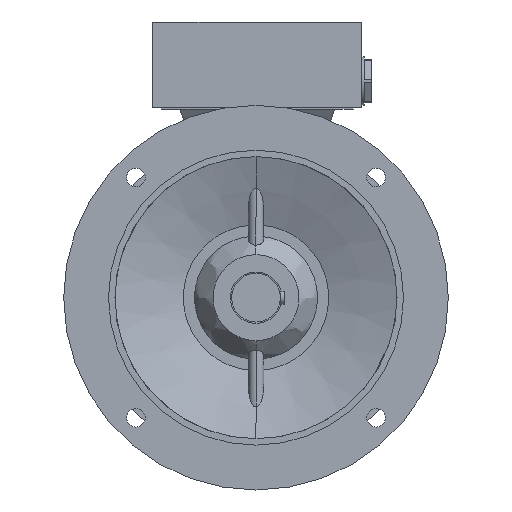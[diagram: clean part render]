
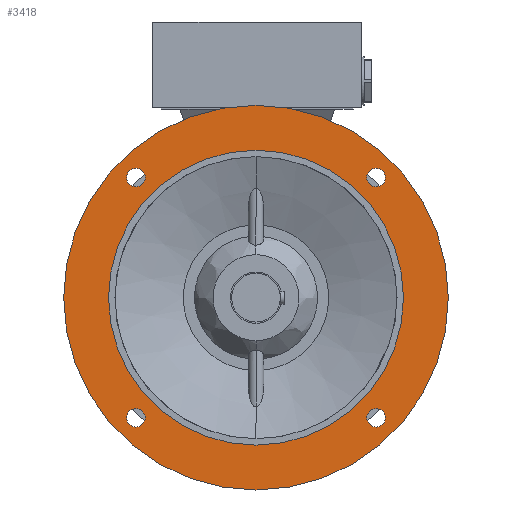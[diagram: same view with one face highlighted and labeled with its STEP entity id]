
A CAD part, left-side view. The second image highlights one B-rep face of the part: STEP entity #3418.
In plain terms, the highlighted planar face has unit normal (-1, 0, 0).
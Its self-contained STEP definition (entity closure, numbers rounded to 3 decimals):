
#764 = VERTEX_POINT ( 'NONE', #19964 ) ;
#766 = VERTEX_POINT ( 'NONE', #19965 ) ;
#768 = VERTEX_POINT ( 'NONE', #19966 ) ;
#770 = VERTEX_POINT ( 'NONE', #19967 ) ;
#782 = VERTEX_POINT ( 'NONE', #19972 ) ;
#788 = VERTEX_POINT ( 'NONE', #19975 ) ;
#790 = VERTEX_POINT ( 'NONE', #19976 ) ;
#795 = VERTEX_POINT ( 'NONE', #19979 ) ;
#797 = VERTEX_POINT ( 'NONE', #19980 ) ;
#805 = VERTEX_POINT ( 'NONE', #19983 ) ;
#807 = VERTEX_POINT ( 'NONE', #19984 ) ;
#813 = VERTEX_POINT ( 'NONE', #19987 ) ;
#1368 = CIRCLE ( 'NONE', #19441, 7.25 ) ;
#1381 = CIRCLE ( 'NONE', #19444, 7.25 ) ;
#1392 = CIRCLE ( 'NONE', #19447, 7.25 ) ;
#1426 = CIRCLE ( 'NONE', #19453, 7.25 ) ;
#1528 = CIRCLE ( 'NONE', #19490, 115. ) ;
#1531 = CIRCLE ( 'NONE', #19492, 150. ) ;
#2607 = EDGE_CURVE ( 'NONE', #807, #813, #10595, .T. ) ;
#2608 = EDGE_CURVE ( 'NONE', #797, #805, #10593, .T. ) ;
#2609 = EDGE_CURVE ( 'NONE', #790, #795, #10597, .T. ) ;
#2610 = EDGE_CURVE ( 'NONE', #782, #788, #10598, .T. ) ;
#2611 = EDGE_CURVE ( 'NONE', #764, #766, #10599, .T. ) ;
#2624 = EDGE_CURVE ( 'NONE', #768, #770, #10623, .T. ) ;
#3418 = ADVANCED_FACE ( 'NONE', ( #10918, #10920, #10910, #10919, #10901, #10921 ), #18068, .T. ) ;
#9034 = CARTESIAN_POINT ( 'NONE',  ( -50.5, -93.692, -93.692 ) ) ;
#9035 = DIRECTION ( 'NONE',  ( 1., 0., 0. ) ) ;
#9036 = DIRECTION ( 'NONE',  ( 0., 0., -1. ) ) ;
#9043 = CARTESIAN_POINT ( 'NONE',  ( -50.5, 93.692, -93.692 ) ) ;
#9044 = DIRECTION ( 'NONE',  ( 1., 0., 0. ) ) ;
#9045 = DIRECTION ( 'NONE',  ( 0., 0., -1. ) ) ;
#9054 = CARTESIAN_POINT ( 'NONE',  ( -50.5, 93.692, 93.692 ) ) ;
#9055 = DIRECTION ( 'NONE',  ( 1., 0., 0. ) ) ;
#9056 = DIRECTION ( 'NONE',  ( 0., 0., -1. ) ) ;
#9168 = CARTESIAN_POINT ( 'NONE',  ( -50.5, -93.692, 93.692 ) ) ;
#9170 = DIRECTION ( 'NONE',  ( 1., 0., 0. ) ) ;
#9172 = DIRECTION ( 'NONE',  ( 0., 0., -1. ) ) ;
#10005 = CARTESIAN_POINT ( 'NONE',  ( -50.5, 0., 0. ) ) ;
#10007 = DIRECTION ( 'NONE',  ( 1., 0., 0. ) ) ;
#10009 = DIRECTION ( 'NONE',  ( 0., 0., 1. ) ) ;
#10024 = CARTESIAN_POINT ( 'NONE',  ( -50.5, 0., 0. ) ) ;
#10026 = DIRECTION ( 'NONE',  ( 1., 0., 0. ) ) ;
#10027 = DIRECTION ( 'NONE',  ( 0., 0., 1. ) ) ;
#10593 = CIRCLE ( 'NONE', #22544, 7.25 ) ;
#10595 = CIRCLE ( 'NONE', #22543, 7.25 ) ;
#10597 = CIRCLE ( 'NONE', #22545, 7.25 ) ;
#10598 = CIRCLE ( 'NONE', #22546, 7.25 ) ;
#10599 = CIRCLE ( 'NONE', #22547, 150. ) ;
#10623 = CIRCLE ( 'NONE', #22549, 115. ) ;
#10901 = FACE_BOUND ( 'NONE', #13712, .T. ) ;
#10910 = FACE_BOUND ( 'NONE', #13750, .T. ) ;
#10918 = FACE_OUTER_BOUND ( 'NONE', #13752, .T. ) ;
#10919 = FACE_BOUND ( 'NONE', #13778, .T. ) ;
#10920 = FACE_BOUND ( 'NONE', #13764, .T. ) ;
#10921 = FACE_BOUND ( 'NONE', #13748, .T. ) ;
#13712 = EDGE_LOOP ( 'NONE', ( #20463, #20376 ) ) ;
#13748 = EDGE_LOOP ( 'NONE', ( #20516, #20418 ) ) ;
#13750 = EDGE_LOOP ( 'NONE', ( #20441, #20380 ) ) ;
#13752 = EDGE_LOOP ( 'NONE', ( #20438, #20345 ) ) ;
#13764 = EDGE_LOOP ( 'NONE', ( #20506, #20368 ) ) ;
#13778 = EDGE_LOOP ( 'NONE', ( #20542, #20377 ) ) ;
#14772 = AXIS2_PLACEMENT_3D ( 'NONE', #18074, #18069, #18075 ) ;
#18068 = PLANE ( 'NONE',  #14772 ) ;
#18069 = DIRECTION ( 'NONE',  ( -1., 0., 0. ) ) ;
#18074 = CARTESIAN_POINT ( 'NONE',  ( -50.5, 132.5, 0. ) ) ;
#18075 = DIRECTION ( 'NONE',  ( 0., 0., 1. ) ) ;
#19441 = AXIS2_PLACEMENT_3D ( 'NONE', #9034, #9035, #9036 ) ;
#19444 = AXIS2_PLACEMENT_3D ( 'NONE', #9043, #9044, #9045 ) ;
#19447 = AXIS2_PLACEMENT_3D ( 'NONE', #9054, #9055, #9056 ) ;
#19453 = AXIS2_PLACEMENT_3D ( 'NONE', #9168, #9170, #9172 ) ;
#19490 = AXIS2_PLACEMENT_3D ( 'NONE', #10005, #10007, #10009 ) ;
#19492 = AXIS2_PLACEMENT_3D ( 'NONE', #10024, #10026, #10027 ) ;
#19964 = CARTESIAN_POINT ( 'NONE',  ( -50.5, 0., 150. ) ) ;
#19965 = CARTESIAN_POINT ( 'NONE',  ( -50.5, 0., -150. ) ) ;
#19966 = CARTESIAN_POINT ( 'NONE',  ( -50.5, 0., 115. ) ) ;
#19967 = CARTESIAN_POINT ( 'NONE',  ( -50.5, 0., -115. ) ) ;
#19972 = CARTESIAN_POINT ( 'NONE',  ( -50.5, -93.692, 86.442 ) ) ;
#19975 = CARTESIAN_POINT ( 'NONE',  ( -50.5, -93.692, 100.942 ) ) ;
#19976 = CARTESIAN_POINT ( 'NONE',  ( -50.5, 93.692, 86.442 ) ) ;
#19979 = CARTESIAN_POINT ( 'NONE',  ( -50.5, 93.692, 100.942 ) ) ;
#19980 = CARTESIAN_POINT ( 'NONE',  ( -50.5, 93.692, -100.942 ) ) ;
#19983 = CARTESIAN_POINT ( 'NONE',  ( -50.5, 93.692, -86.442 ) ) ;
#19984 = CARTESIAN_POINT ( 'NONE',  ( -50.5, -93.692, -100.942 ) ) ;
#19987 = CARTESIAN_POINT ( 'NONE',  ( -50.5, -93.692, -86.442 ) ) ;
#20345 = ORIENTED_EDGE ( 'NONE', *, *, #22443, .F. ) ;
#20368 = ORIENTED_EDGE ( 'NONE', *, *, #22440, .T. ) ;
#20376 = ORIENTED_EDGE ( 'NONE', *, *, #22328, .T. ) ;
#20377 = ORIENTED_EDGE ( 'NONE', *, *, #22331, .T. ) ;
#20380 = ORIENTED_EDGE ( 'NONE', *, *, #22350, .T. ) ;
#20418 = ORIENTED_EDGE ( 'NONE', *, *, #22325, .T. ) ;
#20438 = ORIENTED_EDGE ( 'NONE', *, *, #2611, .F. ) ;
#20441 = ORIENTED_EDGE ( 'NONE', *, *, #2610, .T. ) ;
#20463 = ORIENTED_EDGE ( 'NONE', *, *, #2608, .T. ) ;
#20506 = ORIENTED_EDGE ( 'NONE', *, *, #2624, .T. ) ;
#20516 = ORIENTED_EDGE ( 'NONE', *, *, #2607, .T. ) ;
#20542 = ORIENTED_EDGE ( 'NONE', *, *, #2609, .T. ) ;
#22166 = CARTESIAN_POINT ( 'NONE',  ( -50.5, -93.692, -93.692 ) ) ;
#22167 = DIRECTION ( 'NONE',  ( 1., 0., 0. ) ) ;
#22168 = DIRECTION ( 'NONE',  ( 0., 0., -1. ) ) ;
#22169 = CARTESIAN_POINT ( 'NONE',  ( -50.5, 93.692, -93.692 ) ) ;
#22170 = DIRECTION ( 'NONE',  ( 1., 0., 0. ) ) ;
#22171 = DIRECTION ( 'NONE',  ( 0., 0., -1. ) ) ;
#22172 = CARTESIAN_POINT ( 'NONE',  ( -50.5, 93.692, 93.692 ) ) ;
#22173 = DIRECTION ( 'NONE',  ( 1., 0., 0. ) ) ;
#22174 = DIRECTION ( 'NONE',  ( 0., 0., -1. ) ) ;
#22175 = CARTESIAN_POINT ( 'NONE',  ( -50.5, -93.692, 93.692 ) ) ;
#22176 = DIRECTION ( 'NONE',  ( 1., 0., 0. ) ) ;
#22177 = DIRECTION ( 'NONE',  ( 0., 0., -1. ) ) ;
#22180 = CARTESIAN_POINT ( 'NONE',  ( -50.5, 0., 0. ) ) ;
#22181 = DIRECTION ( 'NONE',  ( 1., 0., 0. ) ) ;
#22182 = DIRECTION ( 'NONE',  ( 0., 0., 1. ) ) ;
#22208 = CARTESIAN_POINT ( 'NONE',  ( -50.5, 0., 0. ) ) ;
#22209 = DIRECTION ( 'NONE',  ( 1., 0., 0. ) ) ;
#22210 = DIRECTION ( 'NONE',  ( 0., 0., 1. ) ) ;
#22325 = EDGE_CURVE ( 'NONE', #813, #807, #1368, .T. ) ;
#22328 = EDGE_CURVE ( 'NONE', #805, #797, #1381, .T. ) ;
#22331 = EDGE_CURVE ( 'NONE', #795, #790, #1392, .T. ) ;
#22350 = EDGE_CURVE ( 'NONE', #788, #782, #1426, .T. ) ;
#22440 = EDGE_CURVE ( 'NONE', #770, #768, #1528, .T. ) ;
#22443 = EDGE_CURVE ( 'NONE', #766, #764, #1531, .T. ) ;
#22543 = AXIS2_PLACEMENT_3D ( 'NONE', #22166, #22167, #22168 ) ;
#22544 = AXIS2_PLACEMENT_3D ( 'NONE', #22169, #22170, #22171 ) ;
#22545 = AXIS2_PLACEMENT_3D ( 'NONE', #22172, #22173, #22174 ) ;
#22546 = AXIS2_PLACEMENT_3D ( 'NONE', #22175, #22176, #22177 ) ;
#22547 = AXIS2_PLACEMENT_3D ( 'NONE', #22180, #22181, #22182 ) ;
#22549 = AXIS2_PLACEMENT_3D ( 'NONE', #22208, #22209, #22210 ) ;
